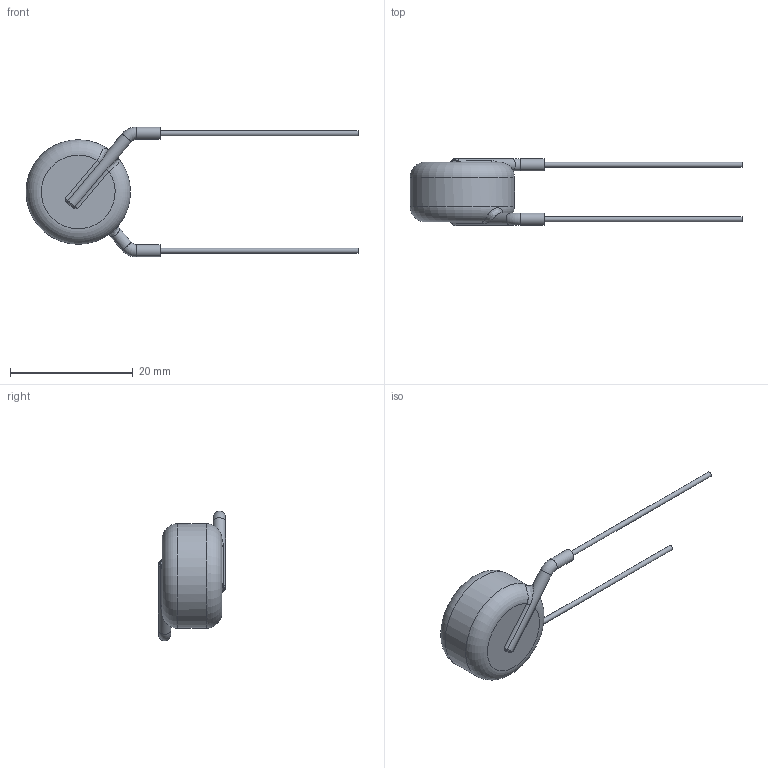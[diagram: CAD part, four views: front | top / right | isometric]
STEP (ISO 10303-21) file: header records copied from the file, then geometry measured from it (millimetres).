
FILE_DESCRIPTION((''),'2;1');
FILE_NAME('I:\Marketing\M6t1\3D-Models\Zchng-Werk-3\Upload for homepage\Ceramite\X5F-15kV\615R150GAT10\615R150GAT10.stp','2015-08-28T11:58:51',(''),(''),'Autodesk Inventor 2013','Autodesk Inventor 2013','');
FILE_SCHEMA(('AUTOMOTIVE_DESIGN { 1 0 10303 214 1 1 1 1 }'));
Length unit declared in the file: centimetre
Products named in the file (1): 615R150GAT10
Bounding box: 54 x 10.9 x 21.1 mm (x, y, z)
Volume: 2183.9 mm3; surface area: 1146.2 mm2
Topology: 1 solids, 1 shells, 42 faces, 94 edges, 52 vertices
Faces by surface type: cylinder 13, torus 11, bspline 10, plane 8
Full cylindrical faces by diameter (mm): 0.81 x2, 2 x4, 17 x1
Entity records: 1465 total; most frequent: CARTESIAN_POINT 632, DIRECTION 152, ORIENTED_EDGE 140, AXIS2_PLACEMENT_3D 70, EDGE_CURVE 70, EDGE_LOOP 54, VERTEX_POINT 44, STYLED_ITEM 42
